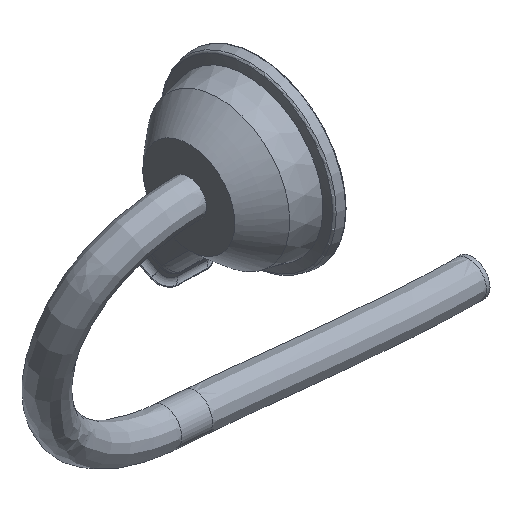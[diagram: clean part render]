
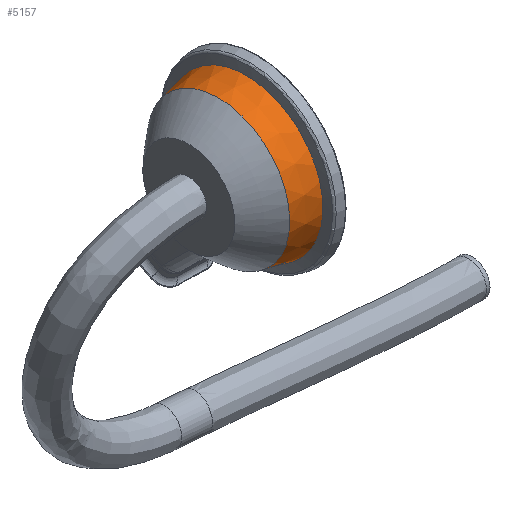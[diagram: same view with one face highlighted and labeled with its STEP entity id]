
A CAD part, isometric view. The second image highlights one B-rep face of the part: STEP entity #5157.
In plain terms, the highlighted conical face has half-angle 12 degrees and reference radius 108.449 mm.
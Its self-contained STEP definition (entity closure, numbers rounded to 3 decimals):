
#11 = CARTESIAN_POINT ( 'NONE',  ( 13.5, 0., 2205. ) ) ;
#295 = CARTESIAN_POINT ( 'NONE',  ( 52.24, 0., 2205. ) ) ;
#513 = VERTEX_POINT ( 'NONE', #4063 ) ;
#844 = FACE_OUTER_BOUND ( 'NONE', #1284, .T. ) ;
#1007 = CARTESIAN_POINT ( 'NONE',  ( 25.747, 80.382, 2140.157 ) ) ;
#1284 = EDGE_LOOP ( 'NONE', ( #2422, #5318, #1557, #3641 ) ) ;
#1557 = ORIENTED_EDGE ( 'NONE', *, *, #3667, .F. ) ;
#1830 = CARTESIAN_POINT ( 'NONE',  ( 13.5, 79.373, 2143.096 ) ) ;
#1969 = CONICAL_SURFACE ( 'NONE', #3221, 108.449, 0.209 ) ;
#2177 = DIRECTION ( 'NONE',  ( 1., 0., 0. ) ) ;
#2200 = VERTEX_POINT ( 'NONE', #2719 ) ;
#2422 = ORIENTED_EDGE ( 'NONE', *, *, #3499, .T. ) ;
#2676 = CARTESIAN_POINT ( 'NONE',  ( 13.5, 79.373, 2143.096 ) ) ;
#2719 = CARTESIAN_POINT ( 'NONE',  ( 52.24, 20.267, 2098.009 ) ) ;
#2793 = CARTESIAN_POINT ( 'NONE',  ( 13.5, 13.924, 2105.309 ) ) ;
#2953 = DIRECTION ( 'NONE',  ( 0., -1., 0. ) ) ;
#3033 = EDGE_CURVE ( 'NONE', #2200, #513, #4322, .T. ) ;
#3221 = AXIS2_PLACEMENT_3D ( 'NONE', #4051, #4086, #6230 ) ;
#3402 = CARTESIAN_POINT ( 'NONE',  ( 52.24, 20.267, 2098.009 ) ) ;
#3458 = DIRECTION ( 'NONE',  ( -1., 0., 0. ) ) ;
#3499 = EDGE_CURVE ( 'NONE', #513, #6299, #5426, .T. ) ;
#3641 = ORIENTED_EDGE ( 'NONE', *, *, #3033, .T. ) ;
#3667 = EDGE_CURVE ( 'NONE', #2200, #4159, #3821, .T. ) ;
#3727 = CARTESIAN_POINT ( 'NONE',  ( 13.5, 13.924, 2105.309 ) ) ;
#3821 = B_SPLINE_CURVE_WITH_KNOTS ( 'NONE', 3,
 ( #3402, #4400, #6685, #2793 ),
 .UNSPECIFIED., .F., .F.,
 ( 4, 4 ),
 ( 0., 1. ),
 .UNSPECIFIED. ) ;
#4051 = CARTESIAN_POINT ( 'NONE',  ( 50.147, 0., 2205. ) ) ;
#4063 = CARTESIAN_POINT ( 'NONE',  ( 52.24, 82.523, 2133.953 ) ) ;
#4086 = DIRECTION ( 'NONE',  ( 1., 0., 0. ) ) ;
#4159 = VERTEX_POINT ( 'NONE', #3727 ) ;
#4322 = CIRCLE ( 'NONE', #4894, 108.893 ) ;
#4400 = CARTESIAN_POINT ( 'NONE',  ( 38.595, 18.068, 2100.545 ) ) ;
#4894 = AXIS2_PLACEMENT_3D ( 'NONE', #295, #3458, #2953 ) ;
#5017 = CIRCLE ( 'NONE', #6855, 100.659 ) ;
#5157 = ADVANCED_FACE ( 'NONE', ( #844 ), #1969, .T. ) ;
#5318 = ORIENTED_EDGE ( 'NONE', *, *, #6031, .T. ) ;
#5426 = B_SPLINE_CURVE_WITH_KNOTS ( 'NONE', 3,
 ( #7040, #6370, #1007, #2676 ),
 .UNSPECIFIED., .F., .F.,
 ( 4, 4 ),
 ( 0., 1. ),
 .UNSPECIFIED. ) ;
#6031 = EDGE_CURVE ( 'NONE', #6299, #4159, #5017, .T. ) ;
#6230 = DIRECTION ( 'NONE',  ( 0., 1., 0. ) ) ;
#6299 = VERTEX_POINT ( 'NONE', #1830 ) ;
#6370 = CARTESIAN_POINT ( 'NONE',  ( 38.661, 81.432, 2137.11 ) ) ;
#6685 = CARTESIAN_POINT ( 'NONE',  ( 25.682, 15.954, 2102.978 ) ) ;
#6855 = AXIS2_PLACEMENT_3D ( 'NONE', #11, #2177, #7016 ) ;
#7016 = DIRECTION ( 'NONE',  ( 0., 1., 0. ) ) ;
#7040 = CARTESIAN_POINT ( 'NONE',  ( 52.24, 82.523, 2133.953 ) ) ;
